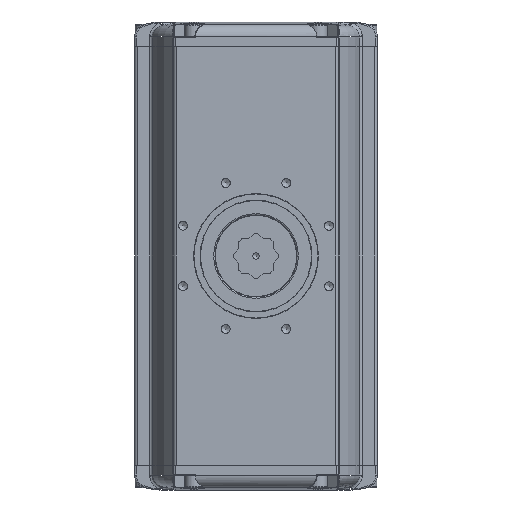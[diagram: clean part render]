
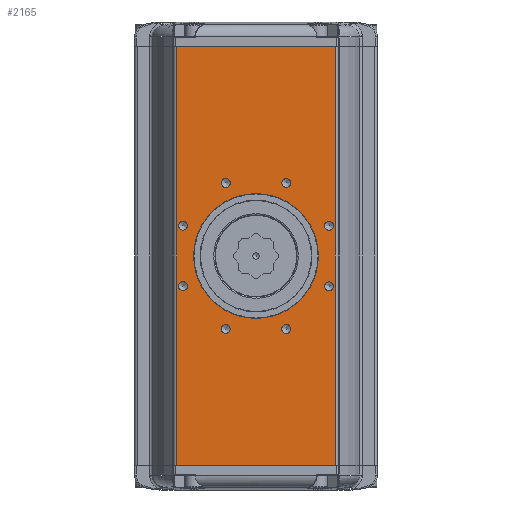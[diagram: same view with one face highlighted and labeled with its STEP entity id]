
A CAD part, front view. The second image highlights one B-rep face of the part: STEP entity #2165.
In plain terms, the highlighted planar face has unit normal (0, -1, 0).
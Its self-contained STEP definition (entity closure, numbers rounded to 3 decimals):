
#1447=CARTESIAN_POINT('',(-127.5,-191.0,336.0));
#1448=VERTEX_POINT('',#1447);
#1456=CARTESIAN_POINT('',(127.5,-191.0,336.0));
#1457=VERTEX_POINT('',#1456);
#1458=CARTESIAN_POINT('',(127.5,-191.0,336.0));
#1459=DIRECTION('',(-1.0,0.0,0.0));
#1460=VECTOR('',#1459,255.);
#1461=LINE('',#1458,#1460);
#1462=EDGE_CURVE('',#1457,#1448,#1461,.T.);
#1818=CARTESIAN_POINT('',(127.5,-191.0,-336.0));
#1819=VERTEX_POINT('',#1818);
#1827=CARTESIAN_POINT('',(-127.5,-191.0,-336.0));
#1828=VERTEX_POINT('',#1827);
#1829=CARTESIAN_POINT('',(-127.5,-191.0,-336.0));
#1830=DIRECTION('',(1.0,0.0,0.0));
#1831=VECTOR('',#1830,255.);
#1832=LINE('',#1829,#1831);
#1833=EDGE_CURVE('',#1828,#1819,#1832,.T.);
#2045=CARTESIAN_POINT('',(132.5,-191.0,0.0));
#2046=DIRECTION('',(0.0,-1.0,0.0));
#2047=DIRECTION('',(0.0,0.0,-1.0));
#2048=AXIS2_PLACEMENT_3D('',#2045,#2046,#2047);
#2049=PLANE('',#2048);
#2050=CARTESIAN_POINT('',(127.5,-191.0,336.0));
#2051=DIRECTION('',(0.0,0.0,-1.0));
#2052=VECTOR('',#2051,672.0);
#2053=LINE('',#2050,#2052);
#2054=EDGE_CURVE('',#1457,#1819,#2053,.T.);
#2055=ORIENTED_EDGE('',*,*,#2054,.F.);
#2056=ORIENTED_EDGE('',*,*,#1462,.T.);
#2057=CARTESIAN_POINT('',(-127.5,-191.0,-336.0));
#2058=DIRECTION('',(0.0,0.0,1.0));
#2059=VECTOR('',#2058,672.0);
#2060=LINE('',#2057,#2059);
#2061=EDGE_CURVE('',#1828,#1448,#2060,.T.);
#2062=ORIENTED_EDGE('',*,*,#2061,.F.);
#2063=ORIENTED_EDGE('',*,*,#1833,.T.);
#2064=EDGE_LOOP('',(#2055,#2056,#2062,#2063));
#2065=FACE_OUTER_BOUND('',#2064,.T.);
#2066=CARTESIAN_POINT('',(122.415,-191.0,53.683));
#2067=VERTEX_POINT('',#2066);
#2068=CARTESIAN_POINT('',(117.333,-191.0,48.601));
#2069=DIRECTION('',(0.0,1.0,0.0));
#2070=DIRECTION('',(0.707,0.0,0.707));
#2071=AXIS2_PLACEMENT_3D('',#2068,#2069,#2070);
#2072=CIRCLE('',#2071,7.188);
#2073=EDGE_CURVE('',#2067,#2067,#2072,.T.);
#2074=ORIENTED_EDGE('',*,*,#2073,.T.);
#2075=EDGE_LOOP('',(#2074));
#2076=FACE_BOUND('',#2075,.T.);
#2077=CARTESIAN_POINT('',(48.601,-191.0,124.521));
#2078=VERTEX_POINT('',#2077);
#2079=CARTESIAN_POINT('',(48.601,-191.0,117.333));
#2080=DIRECTION('',(0.0,1.0,0.0));
#2081=DIRECTION('',(0.0,0.0,1.0));
#2082=AXIS2_PLACEMENT_3D('',#2079,#2080,#2081);
#2083=CIRCLE('',#2082,7.188);
#2084=EDGE_CURVE('',#2078,#2078,#2083,.T.);
#2085=ORIENTED_EDGE('',*,*,#2084,.T.);
#2086=EDGE_LOOP('',(#2085));
#2087=FACE_BOUND('',#2086,.T.);
#2088=CARTESIAN_POINT('',(-53.683,-191.0,122.415));
#2089=VERTEX_POINT('',#2088);
#2090=CARTESIAN_POINT('',(-48.601,-191.0,117.333));
#2091=DIRECTION('',(0.0,1.,0.0));
#2092=DIRECTION('',(-0.707,0.0,0.707));
#2093=AXIS2_PLACEMENT_3D('',#2090,#2091,#2092);
#2094=CIRCLE('',#2093,7.188);
#2095=EDGE_CURVE('',#2089,#2089,#2094,.T.);
#2096=ORIENTED_EDGE('',*,*,#2095,.T.);
#2097=EDGE_LOOP('',(#2096));
#2098=FACE_BOUND('',#2097,.T.);
#2099=CARTESIAN_POINT('',(-124.521,-191.0,48.601));
#2100=VERTEX_POINT('',#2099);
#2101=CARTESIAN_POINT('',(-117.333,-191.0,48.601));
#2102=DIRECTION('',(0.0,1.0,0.0));
#2103=DIRECTION('',(-1.0,0.0,0.0));
#2104=AXIS2_PLACEMENT_3D('',#2101,#2102,#2103);
#2105=CIRCLE('',#2104,7.188);
#2106=EDGE_CURVE('',#2100,#2100,#2105,.T.);
#2107=ORIENTED_EDGE('',*,*,#2106,.T.);
#2108=EDGE_LOOP('',(#2107));
#2109=FACE_BOUND('',#2108,.T.);
#2110=CARTESIAN_POINT('',(-122.415,-191.0,-53.683));
#2111=VERTEX_POINT('',#2110);
#2112=CARTESIAN_POINT('',(-117.333,-191.0,-48.601));
#2113=DIRECTION('',(0.0,1.0,0.0));
#2114=DIRECTION('',(-0.707,0.0,-0.707));
#2115=AXIS2_PLACEMENT_3D('',#2112,#2113,#2114);
#2116=CIRCLE('',#2115,7.188);
#2117=EDGE_CURVE('',#2111,#2111,#2116,.T.);
#2118=ORIENTED_EDGE('',*,*,#2117,.T.);
#2119=EDGE_LOOP('',(#2118));
#2120=FACE_BOUND('',#2119,.T.);
#2121=CARTESIAN_POINT('',(-48.601,-191.0,-124.521));
#2122=VERTEX_POINT('',#2121);
#2123=CARTESIAN_POINT('',(-48.601,-191.0,-117.333));
#2124=DIRECTION('',(0.0,1.0,0.0));
#2125=DIRECTION('',(0.0,0.0,-1.0));
#2126=AXIS2_PLACEMENT_3D('',#2123,#2124,#2125);
#2127=CIRCLE('',#2126,7.188);
#2128=EDGE_CURVE('',#2122,#2122,#2127,.T.);
#2129=ORIENTED_EDGE('',*,*,#2128,.T.);
#2130=EDGE_LOOP('',(#2129));
#2131=FACE_BOUND('',#2130,.T.);
#2132=CARTESIAN_POINT('',(53.683,-191.0,-122.415));
#2133=VERTEX_POINT('',#2132);
#2134=CARTESIAN_POINT('',(48.601,-191.0,-117.333));
#2135=DIRECTION('',(0.0,1.0,0.0));
#2136=DIRECTION('',(0.707,0.0,-0.707));
#2137=AXIS2_PLACEMENT_3D('',#2134,#2135,#2136);
#2138=CIRCLE('',#2137,7.188);
#2139=EDGE_CURVE('',#2133,#2133,#2138,.T.);
#2140=ORIENTED_EDGE('',*,*,#2139,.T.);
#2141=EDGE_LOOP('',(#2140));
#2142=FACE_BOUND('',#2141,.T.);
#2143=CARTESIAN_POINT('',(124.521,-191.0,-48.601));
#2144=VERTEX_POINT('',#2143);
#2145=CARTESIAN_POINT('',(117.333,-191.0,-48.601));
#2146=DIRECTION('',(0.0,1.0,0.0));
#2147=DIRECTION('',(1.0,0.0,0.0));
#2148=AXIS2_PLACEMENT_3D('',#2145,#2146,#2147);
#2149=CIRCLE('',#2148,7.188);
#2150=EDGE_CURVE('',#2144,#2144,#2149,.T.);
#2151=ORIENTED_EDGE('',*,*,#2150,.T.);
#2152=EDGE_LOOP('',(#2151));
#2153=FACE_BOUND('',#2152,.T.);
#2154=CARTESIAN_POINT('',(100.3,-191.0,0.));
#2155=VERTEX_POINT('',#2154);
#2156=CARTESIAN_POINT('',(0.,-191.0,0.0));
#2157=DIRECTION('',(0.0,-1.0,0.0));
#2158=DIRECTION('',(-1.0,0.0,0.0));
#2159=AXIS2_PLACEMENT_3D('',#2156,#2157,#2158);
#2160=CIRCLE('',#2159,100.3);
#2161=EDGE_CURVE('',#2155,#2155,#2160,.T.);
#2162=ORIENTED_EDGE('',*,*,#2161,.F.);
#2163=EDGE_LOOP('',(#2162));
#2164=FACE_BOUND('',#2163,.T.);
#2165=ADVANCED_FACE('',(#2065,#2076,#2087,#2098,#2109,#2120,#2131,#2142,#2153,#2164),#2049,.T.);
